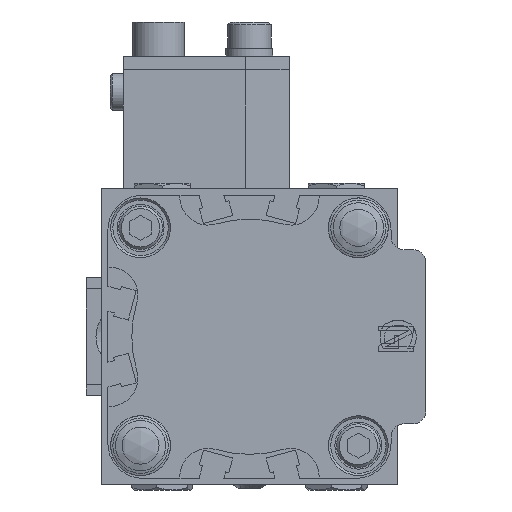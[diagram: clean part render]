
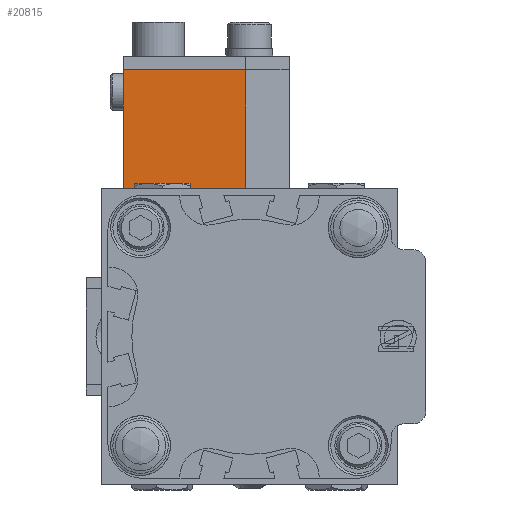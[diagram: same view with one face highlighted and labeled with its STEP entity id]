
A CAD part, left-side view. The second image highlights one B-rep face of the part: STEP entity #20815.
In plain terms, the highlighted planar face has unit normal (-1, 0, 0).
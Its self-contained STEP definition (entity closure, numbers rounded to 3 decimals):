
#2301=LINE('',#34044,#3771);
#2332=LINE('',#34150,#3802);
#2336=LINE('',#34162,#3806);
#2339=LINE('',#34170,#3809);
#3771=VECTOR('',#27707,10.);
#3802=VECTOR('',#27826,10.);
#3806=VECTOR('',#27842,10.);
#3809=VECTOR('',#27851,10.);
#4791=PLANE('',#23315);
#6796=FACE_OUTER_BOUND('',#8550,.T.);
#8550=EDGE_LOOP('',(#17870,#17871,#17872,#17873));
#11171=VERTEX_POINT('',#34041);
#11172=VERTEX_POINT('',#34043);
#11203=VERTEX_POINT('',#34149);
#11205=VERTEX_POINT('',#34161);
#13523=EDGE_CURVE('',#11172,#11171,#2301,.T.);
#13573=EDGE_CURVE('',#11203,#11172,#2332,.T.);
#13578=EDGE_CURVE('',#11205,#11203,#2336,.T.);
#13583=EDGE_CURVE('',#11205,#11171,#2339,.T.);
#17870=ORIENTED_EDGE('',*,*,#13583,.F.);
#17871=ORIENTED_EDGE('',*,*,#13578,.T.);
#17872=ORIENTED_EDGE('',*,*,#13573,.T.);
#17873=ORIENTED_EDGE('',*,*,#13523,.T.);
#20815=ADVANCED_FACE('',(#6796),#4791,.T.);
#23315=AXIS2_PLACEMENT_3D('',#34173,#27856,#27857);
#27707=DIRECTION('',(0.,1.,0.));
#27826=DIRECTION('',(0.,0.,1.));
#27842=DIRECTION('',(0.,-1.,0.));
#27851=DIRECTION('',(0.,0.,1.));
#27856=DIRECTION('center_axis',(-1.,0.,0.));
#27857=DIRECTION('ref_axis',(0.,0.,1.));
#34041=CARTESIAN_POINT('',(-26.37,-3.556,31.75));
#34043=CARTESIAN_POINT('',(-26.37,-31.656,31.75));
#34044=CARTESIAN_POINT('',(-26.37,6.444,31.75));
#34149=CARTESIAN_POINT('',(-26.37,-31.656,0.));
#34150=CARTESIAN_POINT('',(-26.37,-31.656,0.));
#34161=CARTESIAN_POINT('',(-26.37,-3.556,0.));
#34162=CARTESIAN_POINT('',(-26.37,6.444,0.));
#34170=CARTESIAN_POINT('',(-26.37,-3.556,0.));
#34173=CARTESIAN_POINT('Origin',(-26.37,-31.656,0.));
